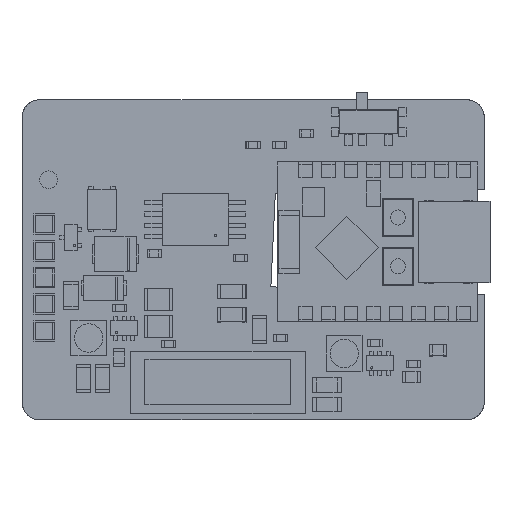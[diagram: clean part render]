
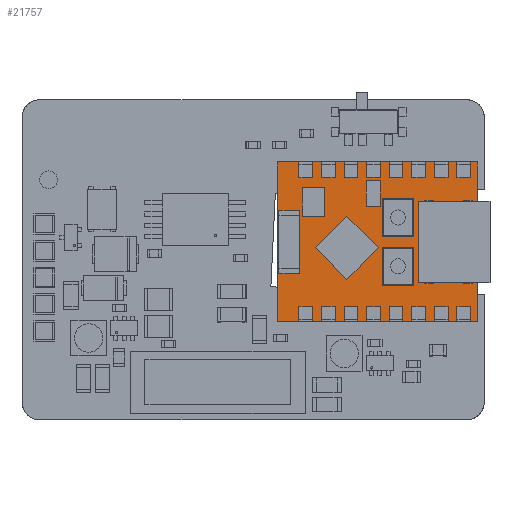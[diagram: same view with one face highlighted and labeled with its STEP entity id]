
A CAD part, top view. The second image highlights one B-rep face of the part: STEP entity #21757.
In plain terms, the highlighted planar face has unit normal (0, 0, 1).
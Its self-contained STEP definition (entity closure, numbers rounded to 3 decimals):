
#21628 = VERTEX_POINT('',#21629);
#21629 = CARTESIAN_POINT('',(-11.26,9.,1.));
#21635 = EDGE_CURVE('',#21628,#21636,#21638,.T.);
#21636 = VERTEX_POINT('',#21637);
#21637 = CARTESIAN_POINT('',(-11.26,-9.,1.));
#21638 = LINE('',#21639,#21640);
#21639 = CARTESIAN_POINT('',(-11.26,9.,1.));
#21640 = VECTOR('',#21641,1.);
#21641 = DIRECTION('',(0.,-1.,0.));
#21666 = EDGE_CURVE('',#21636,#21667,#21669,.T.);
#21667 = VERTEX_POINT('',#21668);
#21668 = CARTESIAN_POINT('',(11.26,-9.,1.));
#21669 = LINE('',#21670,#21671);
#21670 = CARTESIAN_POINT('',(-11.26,-9.,1.));
#21671 = VECTOR('',#21672,1.);
#21672 = DIRECTION('',(1.,0.,0.));
#21697 = EDGE_CURVE('',#21667,#21698,#21700,.T.);
#21698 = VERTEX_POINT('',#21699);
#21699 = CARTESIAN_POINT('',(11.26,9.,1.));
#21700 = LINE('',#21701,#21702);
#21701 = CARTESIAN_POINT('',(11.26,-9.,1.));
#21702 = VECTOR('',#21703,1.);
#21703 = DIRECTION('',(0.,1.,0.));
#21728 = EDGE_CURVE('',#21698,#21628,#21729,.T.);
#21729 = LINE('',#21730,#21731);
#21730 = CARTESIAN_POINT('',(11.26,9.,1.));
#21731 = VECTOR('',#21732,1.);
#21732 = DIRECTION('',(-1.,0.,0.));
#21757 = ADVANCED_FACE('',(#21758),#21764,.T.);
#21758 = FACE_BOUND('',#21759,.T.);
#21759 = EDGE_LOOP('',(#21760,#21761,#21762,#21763));
#21760 = ORIENTED_EDGE('',*,*,#21635,.T.);
#21761 = ORIENTED_EDGE('',*,*,#21666,.T.);
#21762 = ORIENTED_EDGE('',*,*,#21697,.T.);
#21763 = ORIENTED_EDGE('',*,*,#21728,.T.);
#21764 = PLANE('',#21765);
#21765 = AXIS2_PLACEMENT_3D('',#21766,#21767,#21768);
#21766 = CARTESIAN_POINT('',(0.,0.,
    1.));
#21767 = DIRECTION('',(0.,0.,1.));
#21768 = DIRECTION('',(1.,0.,-0.));
